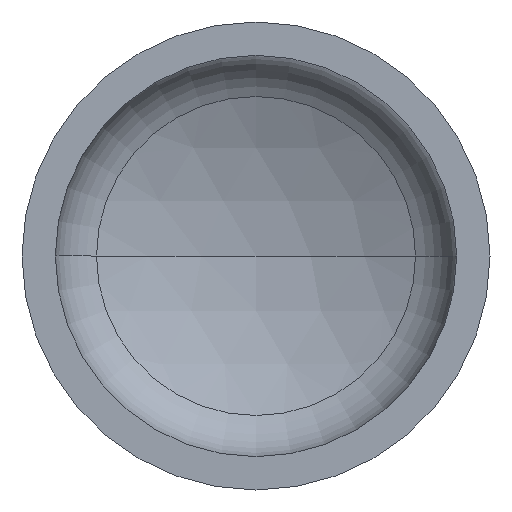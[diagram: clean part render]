
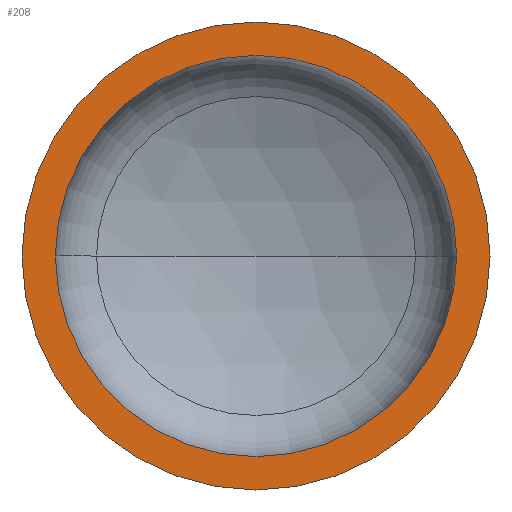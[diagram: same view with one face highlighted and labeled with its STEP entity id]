
A CAD part, front view. The second image highlights one B-rep face of the part: STEP entity #208.
In plain terms, the highlighted planar face has unit normal (0, -1, 0).
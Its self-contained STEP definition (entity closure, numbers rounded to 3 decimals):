
#7 = EDGE_LOOP ( 'NONE', ( #105, #67 ) ) ;
#13 = AXIS2_PLACEMENT_3D ( 'NONE', #140, #313, #176 ) ;
#20 = VERTEX_POINT ( 'NONE', #284 ) ;
#22 = ORIENTED_EDGE ( 'NONE', *, *, #397, .F. ) ;
#34 = PLANE ( 'NONE',  #97 ) ;
#40 = ORIENTED_EDGE ( 'NONE', *, *, #177, .F. ) ;
#42 = EDGE_LOOP ( 'NONE', ( #40, #22 ) ) ;
#51 = VERTEX_POINT ( 'NONE', #265 ) ;
#67 = ORIENTED_EDGE ( 'NONE', *, *, #174, .T. ) ;
#77 = VERTEX_POINT ( 'NONE', #241 ) ;
#97 = AXIS2_PLACEMENT_3D ( 'NONE', #343, #204, #206 ) ;
#100 = CIRCLE ( 'NONE', #13, 686. ) ;
#105 = ORIENTED_EDGE ( 'NONE', *, *, #405, .T. ) ;
#116 = VERTEX_POINT ( 'NONE', #331 ) ;
#133 = CARTESIAN_POINT ( 'NONE',  ( 0., 0., 0. ) ) ;
#140 = CARTESIAN_POINT ( 'NONE',  ( 0., 0., 0. ) ) ;
#142 = DIRECTION ( 'NONE',  ( 0., -1., 0. ) ) ;
#143 = AXIS2_PLACEMENT_3D ( 'NONE', #290, #186, #199 ) ;
#145 = AXIS2_PLACEMENT_3D ( 'NONE', #309, #307, #305 ) ;
#174 = EDGE_CURVE ( 'NONE', #77, #51, #192, .T. ) ;
#176 = DIRECTION ( 'NONE',  ( 1., 0., 0. ) ) ;
#177 = EDGE_CURVE ( 'NONE', #20, #116, #261, .T. ) ;
#186 = DIRECTION ( 'NONE',  ( 0., -1., 0. ) ) ;
#192 = CIRCLE ( 'NONE', #145, 800. ) ;
#199 = DIRECTION ( 'NONE',  ( 1., 0., 0. ) ) ;
#204 = DIRECTION ( 'NONE',  ( 0., 1., 0. ) ) ;
#206 = DIRECTION ( 'NONE',  ( -1., 0., 0. ) ) ;
#208 = ADVANCED_FACE ( 'NONE', ( #302, #250 ), #34, .F. ) ;
#241 = CARTESIAN_POINT ( 'NONE',  ( -800., 0., 0. ) ) ;
#250 = FACE_OUTER_BOUND ( 'NONE', #7, .T. ) ;
#261 = CIRCLE ( 'NONE', #143, 686. ) ;
#265 = CARTESIAN_POINT ( 'NONE',  ( 800., 0., 0. ) ) ;
#284 = CARTESIAN_POINT ( 'NONE',  ( 686., 0., 0. ) ) ;
#290 = CARTESIAN_POINT ( 'NONE',  ( 0., 0., 0. ) ) ;
#302 = FACE_BOUND ( 'NONE', #42, .T. ) ;
#305 = DIRECTION ( 'NONE',  ( 1., 0., 0. ) ) ;
#307 = DIRECTION ( 'NONE',  ( 0., -1., 0. ) ) ;
#309 = CARTESIAN_POINT ( 'NONE',  ( 0., 0., 0. ) ) ;
#313 = DIRECTION ( 'NONE',  ( 0., -1., 0. ) ) ;
#315 = CIRCLE ( 'NONE', #359, 800. ) ;
#331 = CARTESIAN_POINT ( 'NONE',  ( -686., 0., 0. ) ) ;
#343 = CARTESIAN_POINT ( 'NONE',  ( -800., 0., 0. ) ) ;
#359 = AXIS2_PLACEMENT_3D ( 'NONE', #133, #142, #391 ) ;
#391 = DIRECTION ( 'NONE',  ( 1., 0., 0. ) ) ;
#397 = EDGE_CURVE ( 'NONE', #116, #20, #100, .T. ) ;
#405 = EDGE_CURVE ( 'NONE', #51, #77, #315, .T. ) ;
